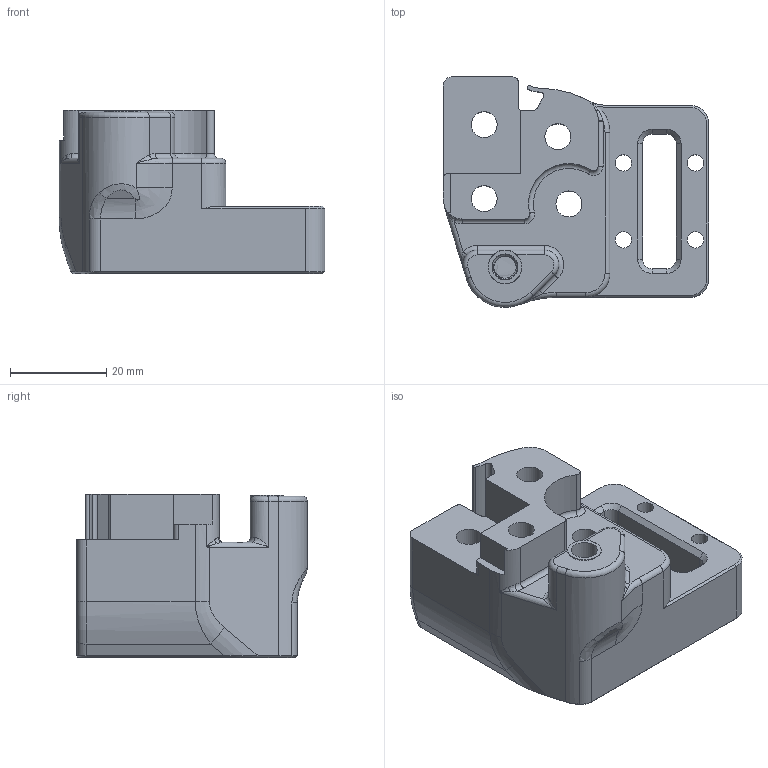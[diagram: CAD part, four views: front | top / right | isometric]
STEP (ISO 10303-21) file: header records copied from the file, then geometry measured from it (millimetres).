
FILE_DESCRIPTION(/* description */ (''),/* implementation_level */ '2;1');
FILE_NAME(/* name */ 'XY-Joint-Right-Lower 330mm.step',/* time_stamp */ '2023-02-24T21:03:16+01:00',/* author */ (''),/* organization */ (''),/* preprocessor_version */ 'ST-DEVELOPER v19.2',/* originating_system */ 'Autodesk Translation Framework v11.17.0.187',/* authorisation */ '');
FILE_SCHEMA (('AUTOMOTIVE_DESIGN { 1 0 10303 214 3 1 1 }'));
Length unit declared in the file: millimetre
Products named in the file (1): (Unsaved)
Bounding box: 55.3 x 48.02 x 34 mm (x, y, z)
Volume: 44038.2 mm3; surface area: 14096.7 mm2
Topology: 1 solids, 1 shells, 264 faces, 680 edges, 414 vertices
Faces by surface type: plane 126, cylinder 71, bspline 27, cone 25, torus 15
Full cylindrical faces by diameter (mm): 3.4 x4, 5.12 x7, 5.4 x5, 7 x1
Entity records: 17576 total; most frequent: CARTESIAN_POINT 11260, ORIENTED_EDGE 1356, DIRECTION 1236, EDGE_CURVE 678, AXIS2_PLACEMENT_3D 421, VERTEX_POINT 414, LINE 394, VECTOR 394
